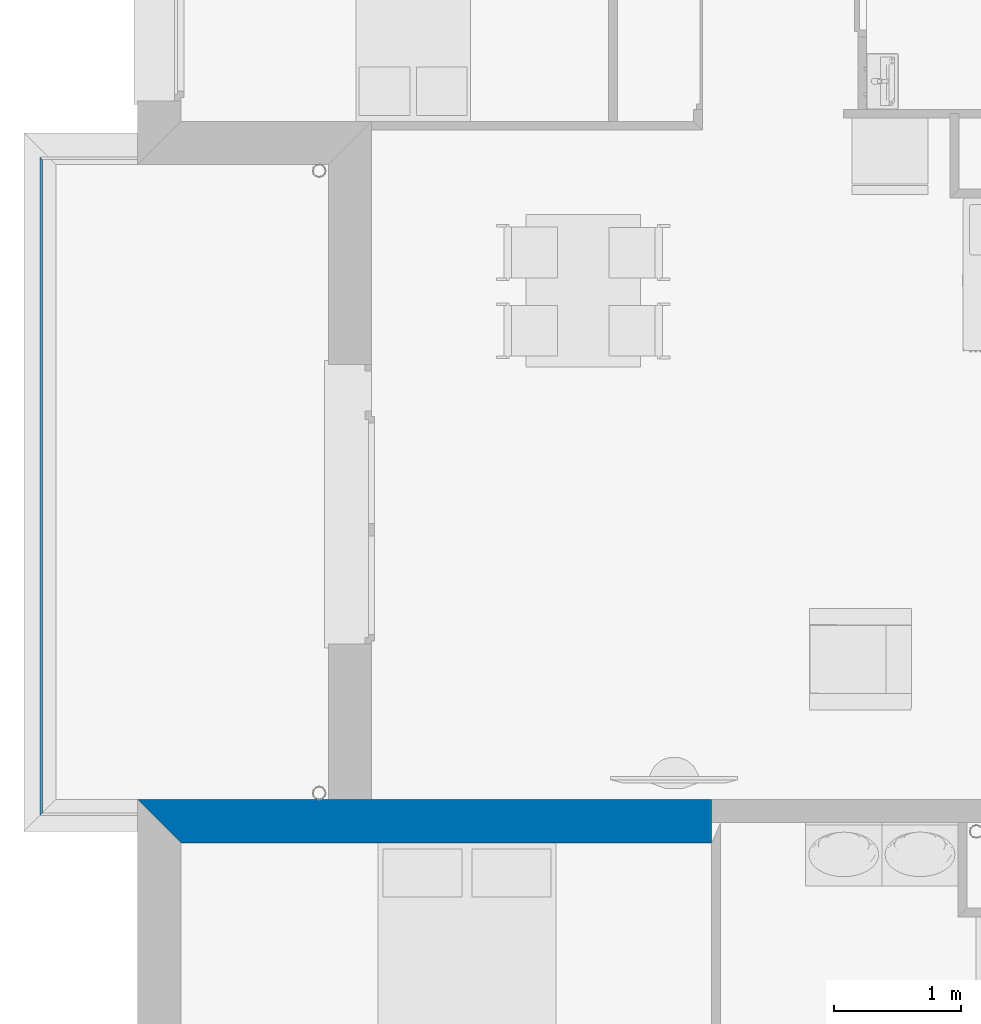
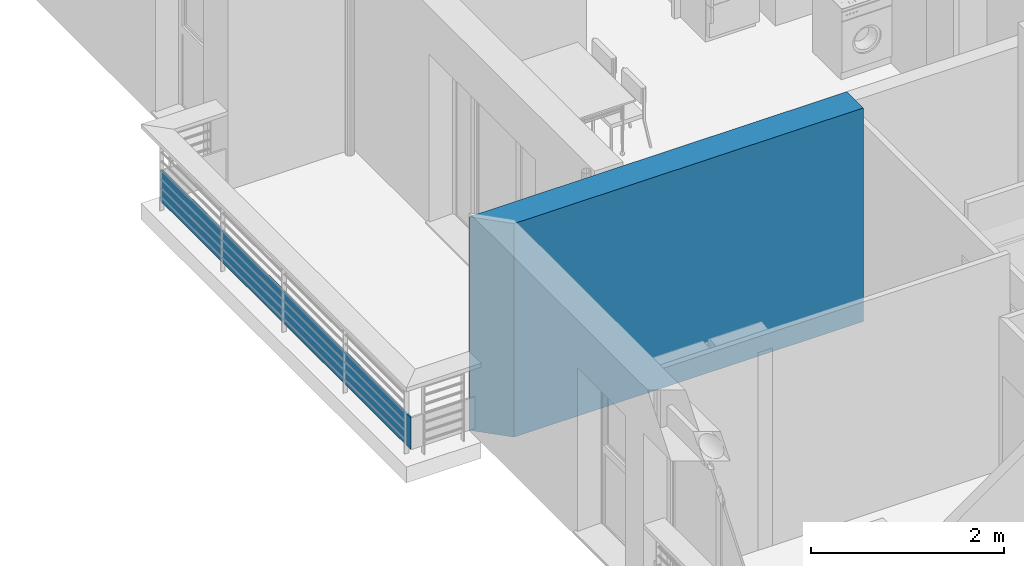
# One storey, part 19 of 164: 2 walls.
"""IFC2X3 building model written with IfcOpenShell, lengths in millimetres."""

from ifc_helpers import new_model, entity, si_unit, converted_unit, derived_unit, money_unit, direction, frame, origin_with_axes, place, context, subcontext, project, spatial, polyline, outline, extrude, material, layer, layer_set, layer_usage, type_object, element, save


model = new_model("IFC2X3")

# Units and contexts
model_context = context("Model", 3, precision=0.01, world=origin_with_axes(), true_north=direction((0.0, 1.0)))
body_context = subcontext(model_context, "Body", "Model", "MODEL_VIEW")
ifc_project = project(units=[si_unit("LENGTHUNIT", "METRE", prefix="MILLI"), si_unit("AREAUNIT", "SQUARE_METRE"), si_unit("VOLUMEUNIT", "CUBIC_METRE"), converted_unit("PLANEANGLEUNIT", "DEGREE", entity("IfcPlaneAngleMeasure", 0.0174532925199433), si_unit("PLANEANGLEUNIT", "RADIAN"), dimensions=[0, 0, 0, 0, 0, 0, 0]), money_unit("USD"), converted_unit("TIMEUNIT", "Year", entity("IfcTimeMeasure", 31557600.0), si_unit("TIMEUNIT", "SECOND"), dimensions=[0, 0, 1, 0, 0, 0, 0]), si_unit("MASSUNIT", "GRAM", prefix="KILO"), si_unit("THERMODYNAMICTEMPERATUREUNIT", "DEGREE_CELSIUS"), si_unit("LUMINOUSINTENSITYUNIT", "LUMEN"), si_unit("ENERGYUNIT", "JOULE", prefix="MEGA"), derived_unit("THERMALCONDUCTANCEUNIT", [(si_unit("POWERUNIT", "WATT"), 1), (si_unit("LENGTHUNIT", "METRE"), -1), (si_unit("THERMODYNAMICTEMPERATUREUNIT", "KELVIN"), -1)]), derived_unit("SPECIFICHEATCAPACITYUNIT", [(si_unit("ENERGYUNIT", "JOULE"), 1), (si_unit("MASSUNIT", "GRAM", prefix="KILO"), -1), (si_unit("THERMODYNAMICTEMPERATUREUNIT", "KELVIN"), -1)]), derived_unit("MASSDENSITYUNIT", [(si_unit("MASSUNIT", "GRAM", prefix="KILO"), 1), (si_unit("VOLUMEUNIT", "CUBIC_METRE"), -1)])], contexts=[model_context])

# Site, building, storey
site_placement = place(None, origin_with_axes())
site = spatial("IfcSite", under=ifc_project, at=site_placement, Name="Site", CompositionType="ELEMENT")
building_placement = place(site_placement, origin_with_axes())
building = spatial("IfcBuilding", under=site, at=building_placement, Name="Bâtiment", CompositionType="ELEMENT")
storey_placement = place(building_placement, frame((0.0, 0.0, 5750.0), z_axis=(0.0, 0.0, 1.0), x_axis=(1.0, 0.0, 0.0)))
storey = spatial("IfcBuildingStorey", under=building, at=storey_placement, Name="Etage1", CompositionType="ELEMENT", Elevation=5750.0)

# Walls
ifc_material_1 = material(Name="MANQUANT")
ifc_layer_1 = layer(ifc_material_1, 20.0, ventilated="UNKNOWN")
ifc_layer_set_1 = layer_set([ifc_layer_1], Name="MANQUANT 20")
ifc_layer_usage_1 = layer_usage(ifc_layer_set_1, "AXIS2", "NEGATIVE", 20.0)
wall_type_1 = type_object("IfcWallType", Name="MANQUANT 20", PredefinedType="NOTDEFINED")
wall_1_placement = place(storey_placement, frame((2215864.230134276, -638958.7464227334, 99.99999999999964), z_axis=(0.0, 0.0, 1.0), x_axis=(0.0, -1.0, 0.0)))
element("IfcWallStandardCase", 1, at=wall_1_placement, inside=storey, type_object=wall_type_1, material=ifc_layer_usage_1, Name="Mur-169", context=body_context, shape_type="SweptSolid", body=[
    extrude(outline(polyline([(0.0, 0.0), (5182.63010048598, 0.0), (5162.630100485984, 19.99999999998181), (19.99999999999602, 19.99999999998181), (0.0, 0.0)])), origin_with_axes(), (0.0, 0.0, 1.0), 400.0),
])
ifc_material_2 = material(Name="Parpaing 312445824")
ifc_layer_2 = layer(ifc_material_2, 180.0, ventilated="UNKNOWN")
ifc_material_3 = material(Name="Isolant styromousse 301821074")
ifc_layer_3 = layer(ifc_material_3, 160.0, ventilated="UNKNOWN")
ifc_layer_set_2 = layer_set([ifc_layer_2, ifc_layer_3], Name="isol int 18+16 0018356637")
ifc_layer_usage_2 = layer_usage(ifc_layer_set_2, "AXIS2", "NEGATIVE", 0.0)
wall_type_2 = type_object("IfcWallType", Name="isol int 18+16 0018356637 340", PredefinedType="NOTDEFINED")
wall_2_placement = place(storey_placement, frame((2216634.233344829, -644016.3765232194, 0.0), z_axis=(0.0, 0.0, 1.0), x_axis=(1.0, 1.263819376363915e-08, 0.0)))
element("IfcWallStandardCase", 2, at=wall_2_placement, inside=storey, type_object=wall_type_2, material=ifc_layer_usage_2, Name="Mur-143", context=body_context, shape_type="SweptSolid", body=[
    extrude(outline(polyline([(339.9999957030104, -340.0000000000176), (4518.117824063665, -340.0000000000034), (4518.117822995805, 0.0), (0.0, 0.0), (339.9999957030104, -340.0000000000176)])), origin_with_axes(), (0.0, 0.0, 1.0), 2700.0),
])

save(model, "model.ifc")
